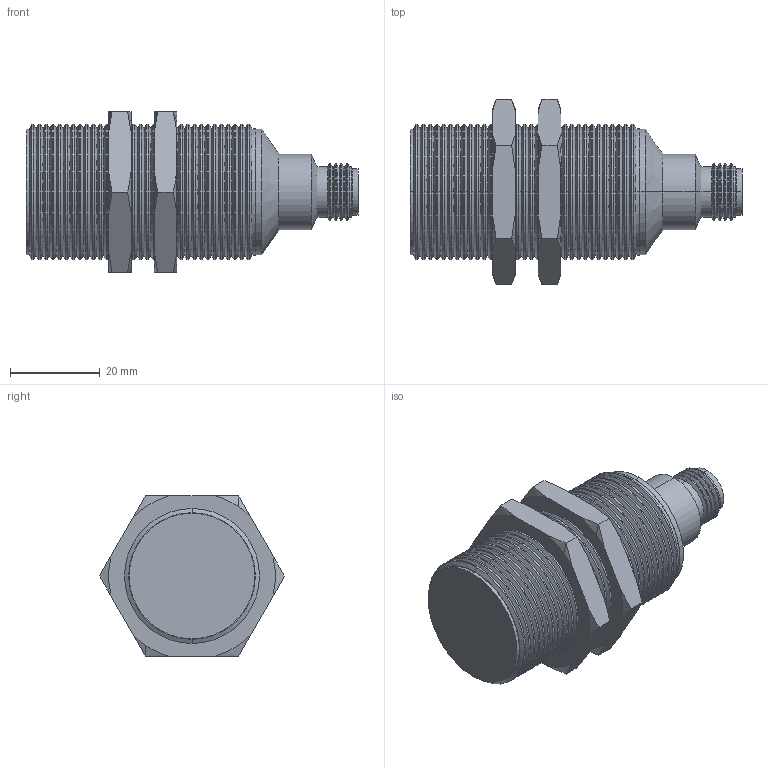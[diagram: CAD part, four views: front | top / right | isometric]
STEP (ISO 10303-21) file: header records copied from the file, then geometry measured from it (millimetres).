
FILE_DESCRIPTION (( 'STEP AP203' ), '1' );
FILE_NAME ('90-XXXX-031.STEP', '2015-10-28T13:21:48', ( 'Sam' ), ( 'Spade' ), 'SwSTEP 2.0', 'SolidWorks 2002296', '' );
FILE_SCHEMA (( 'CONFIG_CONTROL_DESIGN' ));
Length unit declared in the file: inch
Products named in the file (10): 90-XXXX-031; Imported306; Imported305; Imported304; Imported308; Imported307; 49-9063; Imported311; Imported310; Imported309
Assembly tree (9 placements, depth 2):
  90-XXXX-031
    Imported310
    Imported309
    Imported311
    Imported306
    Imported304
    Imported305
    49-9063
    Imported308
    Imported307
Bounding box: 73.81 x 41.15 x 35.64 mm (x, y, z)
Volume: 41811.3 mm3; surface area: 18346.1 mm2
Topology: 9 solids, 9 shells, 408 faces, 865 edges, 483 vertices
Faces by surface type: cone 196, cylinder 119, bspline 48, plane 45
Entity records: 12607 total; most frequent: CARTESIAN_POINT 2860, DIRECTION 1967, ORIENTED_EDGE 1718, EDGE_CURVE 859, AXIS2_PLACEMENT_3D 802, VERTEX_POINT 483, CIRCLE 430, EDGE_LOOP 428
